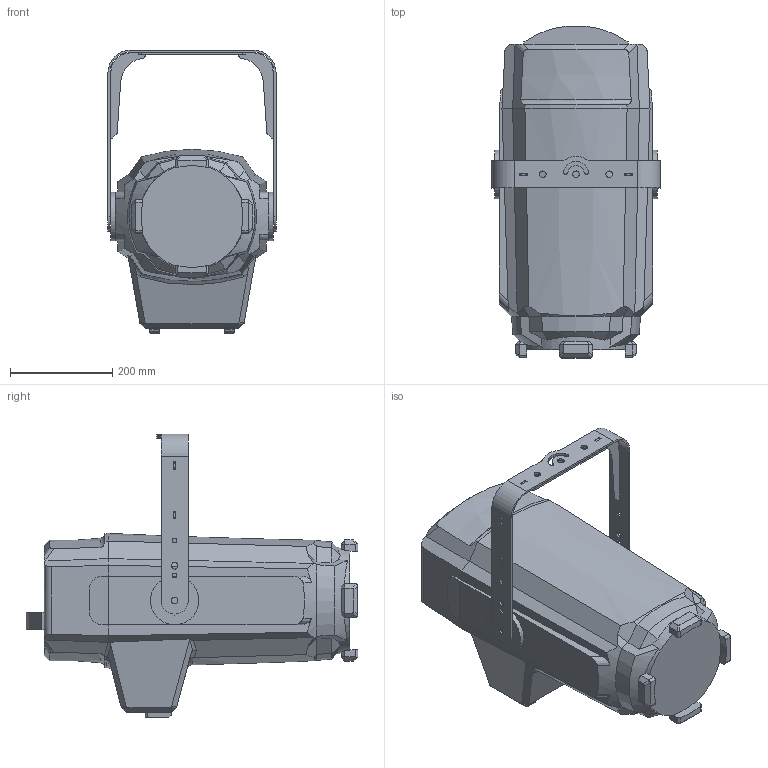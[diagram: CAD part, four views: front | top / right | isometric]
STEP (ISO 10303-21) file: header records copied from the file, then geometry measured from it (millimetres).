
FILE_DESCRIPTION(/* description */ ('Unknown'),/* implementation_level */ '2;1');
FILE_NAME(/* name */ '3D_Robin iT12 Wash',/* time_stamp */ '2024-03-06T12:04:20+01:00',/* author */ ('Unknown'),/* organization */ ('Unknown'),/* preprocessor_version */ 'ST-DEVELOPER v18.104',/* originating_system */ 'Solid Edge',/* authorisation */ 'Unknown');
FILE_SCHEMA (('AUTOMOTIVE_DESIGN {1 0 10303 214 3 1 1}'));
Length unit declared in the file: millimetre
Products named in the file (6): 3D_Robin iT12 Wash; 11031148 Z醰靤 iT12 sva鴈n齙oa_0; 11018796 Z嫛鮀 iT12; 11018822 Výztuha závìsu; 11019003 Podložka závìsu
Assembly tree (6 placements, depth 3):
  3D_Robin iT12 Wash
    3D_Robin iT12 Wash
    11031148 Z醰靤 iT12 sva鴈n齙oa_0
      11018796 Z嫛鮀 iT12
      11018822 Výztuha závìsu  x2
      11019003 Podložka závìsu
Bounding box: 329 x 649.99 x 556 mm (x, y, z)
Volume: 39300930 mm3; surface area: 890644.8 mm2
Topology: 5 solids, 5 shells, 438 faces, 1232 edges, 805 vertices
Faces by surface type: plane 289, cylinder 115, cone 22, bspline 10, torus 2
Full cylindrical faces by diameter (mm): 12.9 x4, 13 x6, 95 x2
Entity records: 13465 total; most frequent: CARTESIAN_POINT 2944, ORIENTED_EDGE 2232, DIRECTION 2075, EDGE_CURVE 1116, VERTEX_POINT 734, LINE 693, VECTOR 693, AXIS2_PLACEMENT_3D 691
